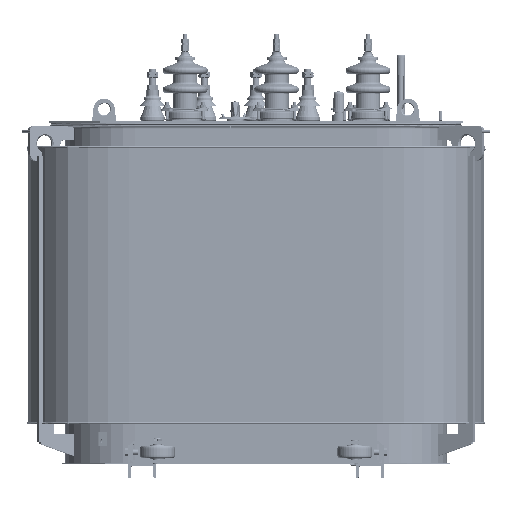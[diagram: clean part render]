
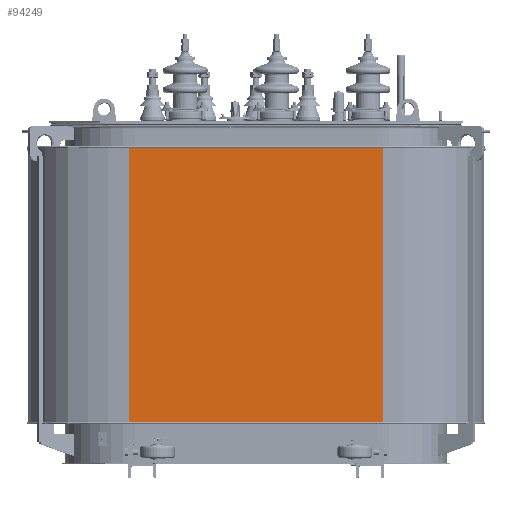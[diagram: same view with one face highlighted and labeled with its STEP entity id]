
A CAD part, top view. The second image highlights one B-rep face of the part: STEP entity #94249.
In plain terms, the highlighted planar face has unit normal (0.001, 0, -1).
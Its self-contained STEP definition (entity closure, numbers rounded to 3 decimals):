
#10681=LINE('',#169782,#17716);
#10682=LINE('',#169786,#17717);
#10683=LINE('',#169788,#17718);
#10684=LINE('',#169789,#17719);
#17716=VECTOR('',#121871,80.);
#17717=VECTOR('',#121876,73.6);
#17718=VECTOR('',#121877,80.);
#17719=VECTOR('',#121878,73.6);
#20593=PLANE('',#101138);
#28234=FACE_OUTER_BOUND('',#35328,.T.);
#35328=EDGE_LOOP('',(#82963,#82964,#82965,#82966));
#46168=VERTEX_POINT('',#169779);
#46169=VERTEX_POINT('',#169781);
#46170=VERTEX_POINT('',#169785);
#46171=VERTEX_POINT('',#169787);
#58349=EDGE_CURVE('',#46168,#46169,#10681,.T.);
#58351=EDGE_CURVE('',#46170,#46168,#10682,.T.);
#58352=EDGE_CURVE('',#46170,#46171,#10683,.T.);
#58353=EDGE_CURVE('',#46171,#46169,#10684,.T.);
#82963=ORIENTED_EDGE('',*,*,#58351,.F.);
#82964=ORIENTED_EDGE('',*,*,#58352,.T.);
#82965=ORIENTED_EDGE('',*,*,#58353,.T.);
#82966=ORIENTED_EDGE('',*,*,#58349,.F.);
#94249=ADVANCED_FACE('',(#28234),#20593,.F.);
#101138=AXIS2_PLACEMENT_3D('',#169784,#121874,#121875);
#121871=DIRECTION('',(0.,1.,0.));
#121874=DIRECTION('center_axis',(-0.001,0.,
1.));
#121875=DIRECTION('ref_axis',(1.,0.,0.001));
#121876=DIRECTION('',(1.,0.,0.001));
#121877=DIRECTION('',(0.,1.,0.));
#121878=DIRECTION('',(1.,0.,0.001));
#169779=CARTESIAN_POINT('',(31.01,-22.028,36.585));
#169781=CARTESIAN_POINT('',(31.01,57.972,36.585));
#169782=CARTESIAN_POINT('',(31.01,-22.028,36.585));
#169784=CARTESIAN_POINT('Origin',(-42.59,-22.028,36.479));
#169785=CARTESIAN_POINT('',(-42.59,-22.028,36.479));
#169786=CARTESIAN_POINT('',(-42.59,-22.028,36.479));
#169787=CARTESIAN_POINT('',(-42.59,57.972,36.479));
#169788=CARTESIAN_POINT('',(-42.59,-22.028,36.479));
#169789=CARTESIAN_POINT('',(-42.59,57.972,36.479));
